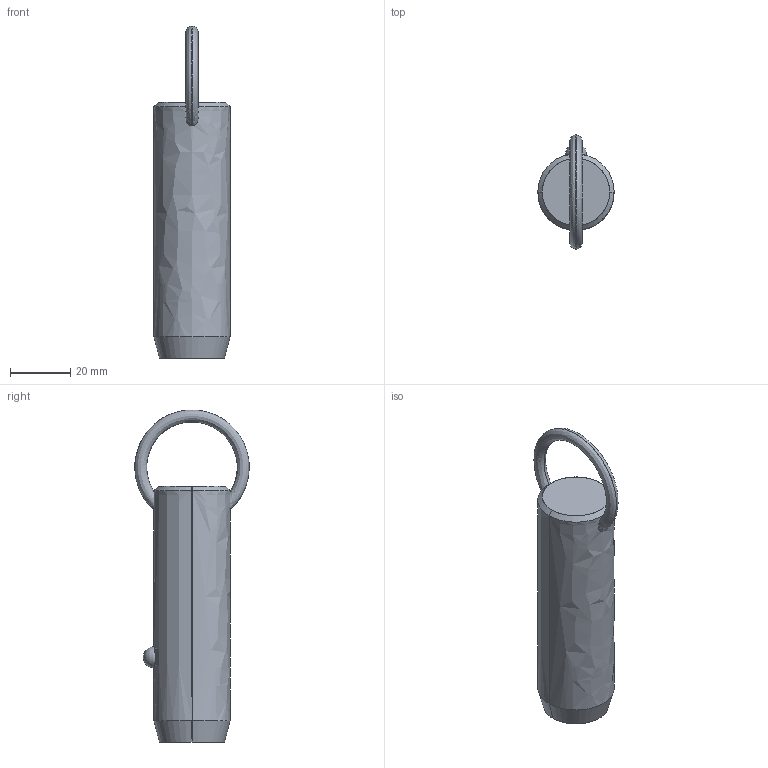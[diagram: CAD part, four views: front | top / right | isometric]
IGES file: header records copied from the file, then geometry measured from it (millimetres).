
Start section: SolidWorks IGES file using analytic representation for surfaces
Global section: file name: C:\Users\liam_\OneDrive\Documents\WORK\Work for WixRoyd\Job Files\J-00019 - Matt Davis CAD Checking\04. CAD Drawings\automotion20190605\P1250.2_v2\P1250.2_v2_20190729_IGES\P1250.100-160.igs; native system: SolidWorks 2017; preprocessor: SolidWorks 2017; author: liam_; date: 190730.173357; units: millimetre
Bounding box: 25.4 x 38.09 x 110.49 mm (x, y, z)
Surface area: 8564 mm2 (no closed solid volume)
Topology: 0 solids, 0 shells, 12 faces, 298 edges, 296 vertices
Faces by surface type: revolution 8, bspline 4
